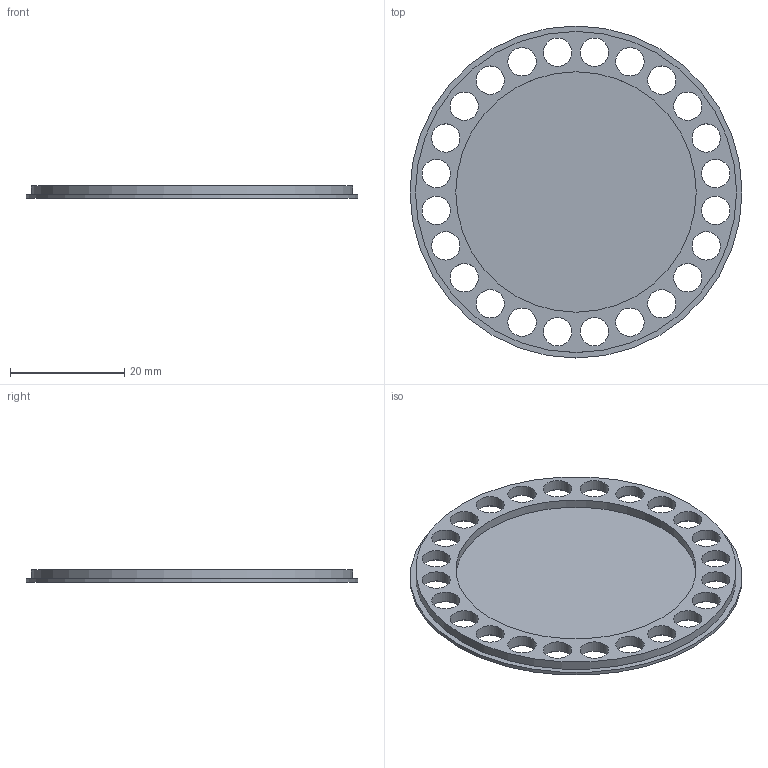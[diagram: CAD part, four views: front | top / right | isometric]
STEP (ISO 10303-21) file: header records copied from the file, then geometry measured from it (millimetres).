
FILE_DESCRIPTION(('Open CASCADE Model'),'2;1');
FILE_NAME('Open CASCADE Shape Model','2026-11-25T01:59:32',('Author'),( 'Open CASCADE'),'Open CASCADE STEP processor 7.9','Open CASCADE 7.9' ,'Unknown');
FILE_SCHEMA(('AUTOMOTIVE_DESIGN { 1 0 10303 214 1 1 1 1 }'));
Length unit declared in the file: millimetre
Products named in the file (1): Open CASCADE STEP translator 7.9 4
Bounding box: 58 x 58 x 2.15 mm (x, y, z)
Volume: 2268.5 mm3; surface area: 5707.4 mm2
Topology: 1 solids, 1 shells, 55 faces, 129 edges, 78 vertices
Faces by surface type: cylinder 27, cone 24, plane 4
Full cylindrical faces by diameter (mm): 4.95 x24, 42 x1, 56.1 x1, 58 x1
Entity records: 3450 total; most frequent: CARTESIAN_POINT 677, DIRECTION 551, ORIENTED_EDGE 258, PCURVE 258, DEFINITIONAL_REPRESENTATION 258, LINE 255, VECTOR 255, AXIS2_PLACEMENT_3D 134
